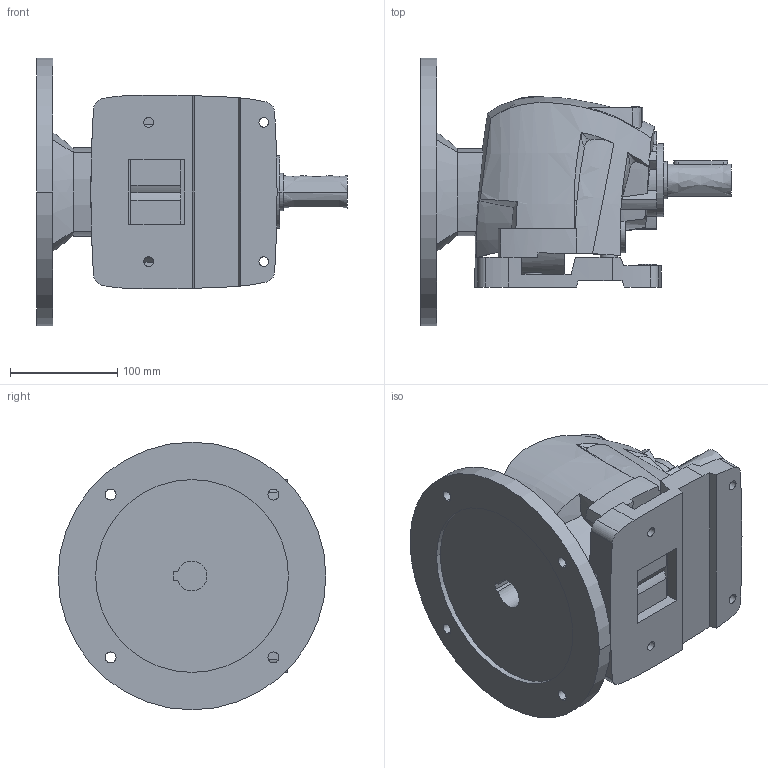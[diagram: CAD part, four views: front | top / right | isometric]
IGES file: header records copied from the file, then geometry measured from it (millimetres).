
Start section:  PTC IGES file: r25_bf_pam100112_d2.igs
Global section: file name: r25_bf_pam100112_d2.igs; native system: Pro/ENGINEER by Parametric Technology Corporation; preprocessor: 2008230; author: Luca; organization: Unknown; date: 20131217.113511; units: millimetre
Bounding box: 290 x 250 x 250 mm (x, y, z)
Volume: 4376271.8 mm3; surface area: 329238.5 mm2
Topology: 1 solids, 5 shells, 442 faces, 1216 edges, 812 vertices
Faces by surface type: bspline 271, revolution 169, extrusion 2
